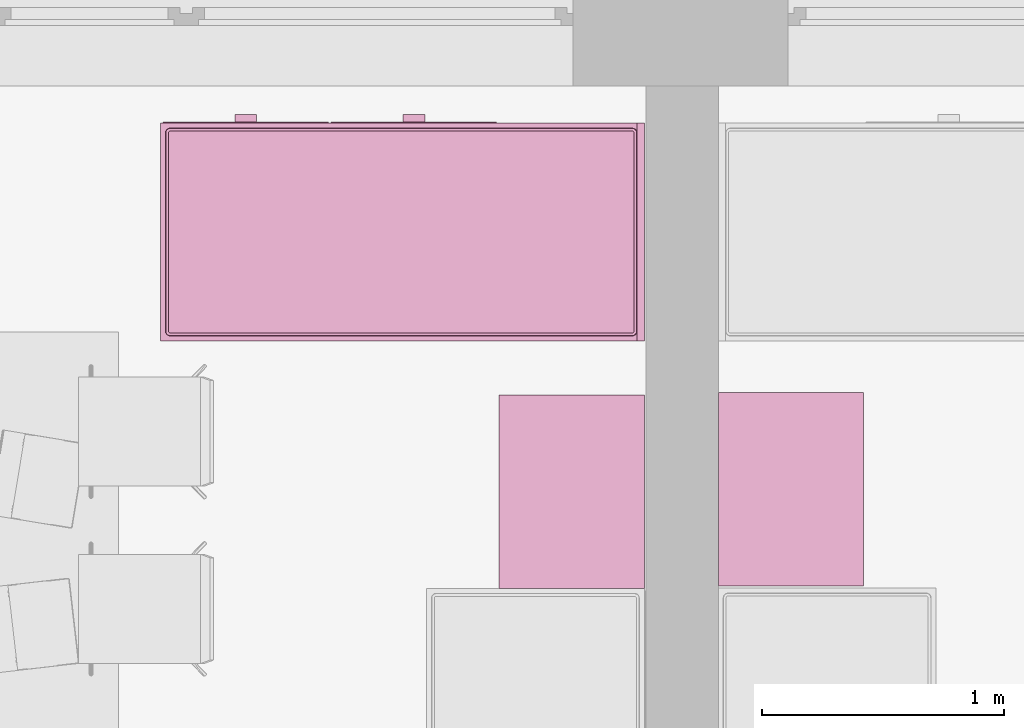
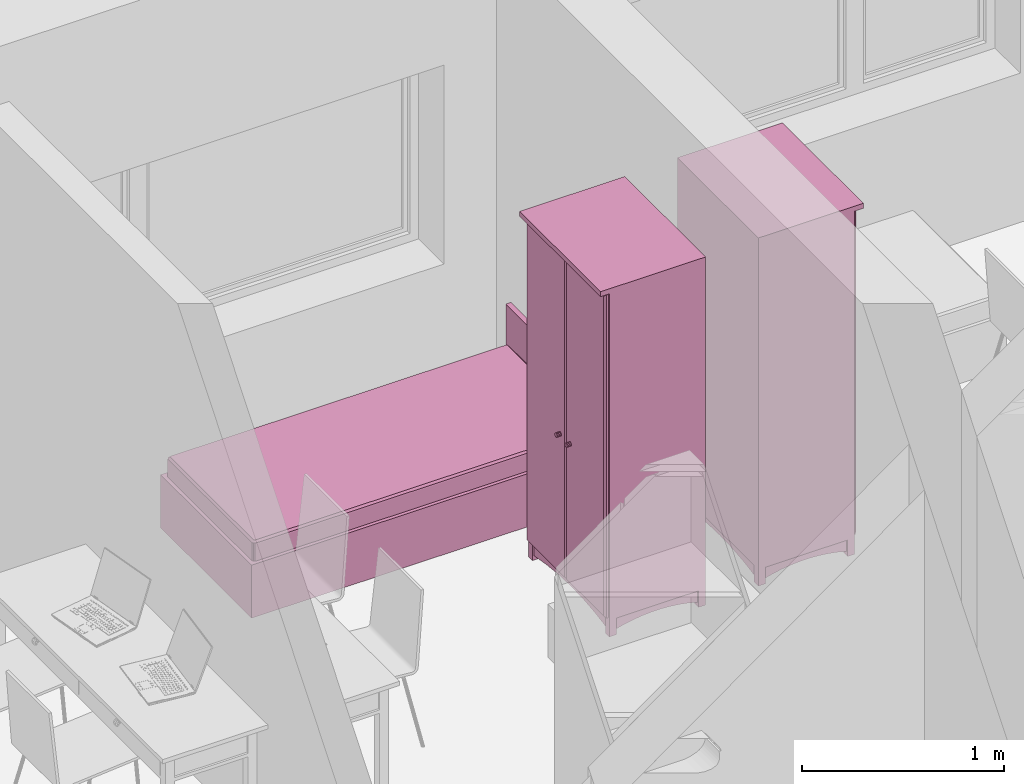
# One storey, part 111 of 172: 3 furnishings.
"""IFC2X3 building model written with IfcOpenShell, lengths in millimetres."""

from ifc_helpers import new_model, entity, si_unit, converted_unit, money_unit, direction, frame, origin_with_axes, place, context, subcontext, project, spatial, faceted_brep, source, transform, mapped, material, material_list, type_object, element, save


model = new_model("IFC2X3")

# Units and contexts
model_context = context("Model", 3, precision=1e-05, world=origin_with_axes(), true_north=direction((0.0, 1.0)))
body_context = subcontext(model_context, "Body", "Model", "MODEL_VIEW")
ifc_project = project(units=[si_unit("LENGTHUNIT", "METRE", prefix="MILLI"), si_unit("AREAUNIT", "SQUARE_METRE"), si_unit("VOLUMEUNIT", "CUBIC_METRE"), converted_unit("PLANEANGLEUNIT", "DEGREE", entity("IfcPlaneAngleMeasure", 0.0174532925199), si_unit("PLANEANGLEUNIT", "RADIAN"), dimensions=[0, 0, 0, 0, 0, 0, 0]), si_unit("SOLIDANGLEUNIT", "STERADIAN"), money_unit("USD"), converted_unit("TIMEUNIT", "Year", entity("IfcTimeMeasure", 31556926.0), si_unit("TIMEUNIT", "SECOND"), dimensions=[0, 0, 0, 0, 0, 0, 0]), si_unit("MASSUNIT", "GRAM"), si_unit("THERMODYNAMICTEMPERATUREUNIT", "DEGREE_CELSIUS"), si_unit("LUMINOUSINTENSITYUNIT", "LUMEN")], contexts=[model_context])

# Site, building, storey
site_placement = place(None, origin_with_axes())
site = spatial("IfcSite", under=ifc_project, at=site_placement, Name="Site", CompositionType="ELEMENT")
building_placement = place(site_placement, origin_with_axes())
building = spatial("IfcBuilding", under=site, at=building_placement, Name="Building", CompositionType="ELEMENT")
storey_placement = place(building_placement, frame((0.0, 0.0, 3200.0), z_axis=(0.0, 0.0, 1.0), x_axis=(1.0, 0.0, 0.0)))
storey = spatial("IfcBuildingStorey", under=building, at=storey_placement, Name="3KORRUS", CompositionType="ELEMENT", Elevation=3200.0)

# Furnishings
ifc_material = material(Name="Background")
ifc_material_list = material_list([ifc_material])
furnishing_element_type_1 = type_object("IfcFurnishingElementType", Name="Cupboard 19")
shared_shape_1 = source(origin_with_axes(), body_context, "Body", "Brep", [
    faceted_brep([(780.0, 600.0, 120.0), (780.0, 600.0, 2050.0), (780.0, 580.0, 2050.0), (780.0, 580.0, 120.0), (20.0, 600.0, 120.0), (20.0, 600.0, 2050.0), (20.0, 580.0, 2050.0), (20.0, 580.0, 120.0)], [[[0, 1, 2, 3]], [[4, 5, 1, 0]], [[1, 5, 6, 2]], [[3, 2, 6, 7]], [[0, 3, 7, 4]], [[7, 6, 5, 4]]]),
    faceted_brep([(0.0, 50.0, 100.0), (0.0, 600.0, 100.0), (20.0, 600.0, 100.0), (20.0, 50.0, 100.0), (0.0, 50.0, 2070.0), (0.0, 600.0, 2070.0), (20.0, 600.0, 2070.0), (20.0, 50.0, 2070.0)], [[[0, 1, 2, 3]], [[0, 4, 5, 1]], [[1, 5, 6, 2]], [[2, 6, 7, 3]], [[3, 7, 4, 0]], [[7, 6, 5, 4]]]),
    faceted_brep([(780.0, 50.0, 100.0), (780.0, 600.0, 100.0), (800.0, 600.0, 100.0), (800.0, 50.0, 100.0), (780.0, 50.0, 2070.0), (780.0, 600.0, 2070.0), (800.0, 600.0, 2070.0), (800.0, 50.0, 2070.0)], [[[0, 1, 2, 3]], [[0, 4, 5, 1]], [[1, 5, 6, 2]], [[2, 6, 7, 3]], [[3, 7, 4, 0]], [[7, 6, 5, 4]]]),
    faceted_brep([(20.0, 50.0, 100.0), (20.0, 600.0, 100.0), (780.0, 600.0, 100.0), (780.0, 50.0, 100.0), (20.0, 50.0, 120.0), (20.0, 600.0, 120.0), (780.0, 600.0, 120.0), (780.0, 50.0, 120.0)], [[[0, 1, 2, 3]], [[0, 4, 5, 1]], [[1, 5, 6, 2]], [[2, 6, 7, 3]], [[3, 7, 4, 0]], [[7, 6, 5, 4]]]),
    faceted_brep([(20.0, 50.0, 2050.0), (20.0, 600.0, 2050.0), (780.0, 600.0, 2050.0), (780.0, 50.0, 2050.0), (20.0, 50.0, 2070.0), (20.0, 600.0, 2070.0), (780.0, 600.0, 2070.0), (780.0, 50.0, 2070.0)], [[[0, 1, 2, 3]], [[0, 4, 5, 1]], [[1, 5, 6, 2]], [[2, 6, 7, 3]], [[3, 7, 4, 0]], [[7, 6, 5, 4]]]),
    faceted_brep([(0.0, 600.0, 2070.0), (0.0, 0.0, 2070.0), (0.0, 0.0, 2100.0), (0.0, 600.0, 2100.0), (800.0, 600.0, 2070.0), (800.0, 0.0, 2070.0), (800.0, 0.0, 2100.0), (800.0, 600.0, 2100.0)], [[[0, 1, 2, 3]], [[0, 4, 5, 1]], [[1, 5, 6, 2]], [[3, 2, 6, 7]], [[4, 0, 3, 7]], [[5, 4, 7, 6]]]),
    faceted_brep([(760.0, 590.0, 25.0), (760.0, 570.0, 25.0), (640.962, 570.0, 45.8), (640.962, 590.0, 45.8), (760.0, 590.0, 100.0), (760.0, 570.0, 100.0), (40.0, 570.0, 100.0), (40.0, 570.0, 25.0), (159.038, 570.0, 45.8), (279.23, 570.0, 58.32), (400.0, 570.0, 62.5), (520.77, 570.0, 58.32), (520.77, 590.0, 58.32), (400.0, 590.0, 62.5), (279.23, 590.0, 58.32), (159.038, 590.0, 45.8), (40.0, 590.0, 25.0), (40.0, 590.0, 100.0)], [[[0, 1, 2, 3]], [[4, 5, 1, 0]], [[1, 5, 6, 7, 8, 9, 10, 11, 2]], [[3, 2, 11, 12]], [[0, 3, 12, 13, 14, 15, 16, 17, 4]], [[17, 6, 5, 4]], [[16, 7, 6, 17]], [[15, 8, 7, 16]], [[14, 9, 8, 15]], [[13, 10, 9, 14]], [[12, 11, 10, 13]]]),
    faceted_brep([(760.0, 80.0, 25.0), (760.0, 60.0, 25.0), (640.962, 60.0, 45.8), (640.962, 80.0, 45.8), (760.0, 80.0, 100.0), (760.0, 60.0, 100.0), (40.0, 60.0, 100.0), (40.0, 60.0, 25.0), (159.038, 60.0, 45.8), (279.23, 60.0, 58.32), (400.0, 60.0, 62.5), (520.77, 60.0, 58.32), (520.77, 80.0, 58.32), (400.0, 80.0, 62.5), (279.23, 80.0, 58.32), (159.038, 80.0, 45.8), (40.0, 80.0, 25.0), (40.0, 80.0, 100.0)], [[[0, 1, 2, 3]], [[4, 5, 1, 0]], [[1, 5, 6, 7, 8, 9, 10, 11, 2]], [[3, 2, 11, 12]], [[0, 3, 12, 13, 14, 15, 16, 17, 4]], [[17, 6, 5, 4]], [[16, 7, 6, 17]], [[15, 8, 7, 16]], [[14, 9, 8, 15]], [[13, 10, 9, 14]], [[12, 11, 10, 13]]]),
    faceted_brep([(790.0, 90.0, 25.0), (770.0, 90.0, 25.0), (770.0, 141.266, 38.072), (790.0, 141.266, 38.072), (790.0, 90.0, 100.0), (770.0, 90.0, 100.0), (770.0, 560.0, 100.0), (770.0, 560.0, 25.0), (770.0, 508.734, 38.072), (770.0, 456.752, 47.92), (770.0, 404.257, 54.508), (770.0, 351.453, 57.808), (770.0, 298.547, 57.808), (770.0, 245.743, 54.508), (770.0, 193.248, 47.92), (790.0, 193.248, 47.92), (790.0, 245.743, 54.508), (790.0, 298.547, 57.808), (790.0, 351.453, 57.808), (790.0, 404.257, 54.508), (790.0, 456.752, 47.92), (790.0, 508.734, 38.072), (790.0, 560.0, 25.0), (790.0, 560.0, 100.0)], [[[0, 1, 2, 3]], [[4, 5, 1, 0]], [[1, 5, 6, 7, 8, 9, 10, 11, 12, 13, 14, 2]], [[3, 2, 14, 15]], [[0, 3, 15, 16, 17, 18, 19, 20, 21, 22, 23, 4]], [[23, 6, 5, 4]], [[22, 7, 6, 23]], [[21, 8, 7, 22]], [[20, 9, 8, 21]], [[19, 10, 9, 20]], [[18, 11, 10, 19]], [[17, 12, 11, 18]], [[16, 13, 12, 17]], [[15, 14, 13, 16]]]),
    faceted_brep([(30.0, 90.0, 25.0), (10.0, 90.0, 25.0), (10.0, 141.266, 38.072), (30.0, 141.266, 38.072), (30.0, 90.0, 100.0), (10.0, 90.0, 100.0), (10.0, 560.0, 100.0), (10.0, 560.0, 25.0), (10.0, 508.734, 38.072), (10.0, 456.752, 47.92), (10.0, 404.257, 54.508), (10.0, 351.453, 57.808), (10.0, 298.547, 57.808), (10.0, 245.743, 54.508), (10.0, 193.248, 47.92), (30.0, 193.248, 47.92), (30.0, 245.743, 54.508), (30.0, 298.547, 57.808), (30.0, 351.453, 57.808), (30.0, 404.257, 54.508), (30.0, 456.752, 47.92), (30.0, 508.734, 38.072), (30.0, 560.0, 25.0), (30.0, 560.0, 100.0)], [[[0, 1, 2, 3]], [[4, 5, 1, 0]], [[1, 5, 6, 7, 8, 9, 10, 11, 12, 13, 14, 2]], [[3, 2, 14, 15]], [[0, 3, 15, 16, 17, 18, 19, 20, 21, 22, 23, 4]], [[23, 6, 5, 4]], [[22, 7, 6, 23]], [[21, 8, 7, 22]], [[20, 9, 8, 21]], [[19, 10, 9, 20]], [[18, 11, 10, 19]], [[17, 12, 11, 18]], [[16, 13, 12, 17]], [[15, 14, 13, 16]]]),
    faceted_brep([(760.0, 560.0, 0.0), (760.0, 560.0, 100.0), (760.0, 600.0, 100.0), (760.0, 600.0, 0.0), (800.0, 560.0, 0.0), (800.0, 560.0, 100.0), (800.0, 600.0, 100.0), (800.0, 600.0, 0.0)], [[[0, 1, 2, 3]], [[4, 5, 1, 0]], [[1, 5, 6, 2]], [[3, 2, 6, 7]], [[0, 3, 7, 4]], [[7, 6, 5, 4]]]),
    faceted_brep([(0.0, 560.0, 0.0), (0.0, 560.0, 100.0), (0.0, 600.0, 100.0), (0.0, 600.0, 0.0), (40.0, 560.0, 0.0), (40.0, 560.0, 100.0), (40.0, 600.0, 100.0), (40.0, 600.0, 0.0)], [[[0, 1, 2, 3]], [[4, 5, 1, 0]], [[1, 5, 6, 2]], [[3, 2, 6, 7]], [[0, 3, 7, 4]], [[7, 6, 5, 4]]]),
    faceted_brep([(760.0, 50.0, 0.0), (760.0, 50.0, 100.0), (760.0, 90.0, 100.0), (760.0, 90.0, 0.0), (800.0, 50.0, 0.0), (800.0, 50.0, 100.0), (800.0, 90.0, 100.0), (800.0, 90.0, 0.0)], [[[0, 1, 2, 3]], [[4, 5, 1, 0]], [[1, 5, 6, 2]], [[3, 2, 6, 7]], [[0, 3, 7, 4]], [[7, 6, 5, 4]]]),
    faceted_brep([(0.0, 50.0, 0.0), (0.0, 50.0, 100.0), (0.0, 90.0, 100.0), (0.0, 90.0, 0.0), (40.0, 50.0, 0.0), (40.0, 50.0, 100.0), (40.0, 90.0, 100.0), (40.0, 90.0, 0.0)], [[[0, 1, 2, 3]], [[4, 5, 1, 0]], [[1, 5, 6, 2]], [[3, 2, 6, 7]], [[0, 3, 7, 4]], [[7, 6, 5, 4]]]),
    faceted_brep([(780.0, 580.0, 587.5), (780.0, 580.0, 607.5), (780.0, 50.0, 607.5), (780.0, 50.0, 587.5), (20.0, 580.0, 587.5), (20.0, 580.0, 607.5), (20.0, 50.0, 607.5), (20.0, 50.0, 587.5)], [[[0, 1, 2, 3]], [[4, 5, 1, 0]], [[1, 5, 6, 2]], [[3, 2, 6, 7]], [[0, 3, 7, 4]], [[7, 6, 5, 4]]]),
    faceted_brep([(780.0, 580.0, 1075.0), (780.0, 580.0, 1095.0), (780.0, 50.0, 1095.0), (780.0, 50.0, 1075.0), (20.0, 580.0, 1075.0), (20.0, 580.0, 1095.0), (20.0, 50.0, 1095.0), (20.0, 50.0, 1075.0)], [[[0, 1, 2, 3]], [[4, 5, 1, 0]], [[1, 5, 6, 2]], [[3, 2, 6, 7]], [[0, 3, 7, 4]], [[7, 6, 5, 4]]]),
    faceted_brep([(780.0, 580.0, 1562.5), (780.0, 580.0, 1582.5), (780.0, 50.0, 1582.5), (780.0, 50.0, 1562.5), (20.0, 580.0, 1562.5), (20.0, 580.0, 1582.5), (20.0, 50.0, 1582.5), (20.0, 50.0, 1562.5)], [[[0, 1, 2, 3]], [[4, 5, 1, 0]], [[1, 5, 6, 2]], [[3, 2, 6, 7]], [[0, 3, 7, 4]], [[7, 6, 5, 4]]]),
    faceted_brep([(789.5, 50.0, 110.5), (400.5, 50.0, 110.5), (400.5, 50.0, 2059.5), (789.5, 50.0, 2059.5), (789.5, 40.0, 110.5), (400.5, 40.0, 110.5), (400.5, 40.0, 2059.5), (789.5, 40.0, 2059.5), (779.5, 30.0, 120.5), (410.5, 30.0, 120.5), (410.5, 30.0, 2049.5), (779.5, 30.0, 2049.5)], [[[0, 1, 2, 3]], [[0, 4, 5, 1]], [[1, 5, 6, 2]], [[2, 6, 7, 3]], [[3, 7, 4, 0]], [[4, 8, 9, 5]], [[5, 9, 10, 6]], [[6, 10, 11, 7]], [[7, 11, 8, 4]], [[10, 9, 8, 11]]]),
    faceted_brep([(399.5, 50.0, 110.5), (10.5, 50.0, 110.5), (10.5, 50.0, 2059.5), (399.5, 50.0, 2059.5), (399.5, 40.0, 110.5), (10.5, 40.0, 110.5), (10.5, 40.0, 2059.5), (399.5, 40.0, 2059.5), (389.5, 30.0, 120.5), (20.5, 30.0, 120.5), (20.5, 30.0, 2049.5), (389.5, 30.0, 2049.5)], [[[0, 1, 2, 3]], [[0, 4, 5, 1]], [[1, 5, 6, 2]], [[2, 6, 7, 3]], [[3, 7, 4, 0]], [[4, 8, 9, 5]], [[5, 9, 10, 6]], [[6, 10, 11, 7]], [[7, 11, 8, 4]], [[10, 9, 8, 11]]]),
    faceted_brep([(339.608, 30.0, 954.0), (338.0, 30.0, 960.0), (339.608, 30.0, 966.0), (344.0, 30.0, 970.392), (350.0, 30.0, 972.0), (356.0, 30.0, 970.392), (360.392, 30.0, 966.0), (362.0, 30.0, 960.0), (360.392, 30.0, 954.0), (356.0, 30.0, 949.608), (350.0, 30.0, 948.0), (344.0, 30.0, 949.608), (339.608, 5.0, 954.0), (338.0, 5.0, 960.0), (339.608, 5.0, 966.0), (344.0, 5.0, 970.392), (350.0, 5.0, 972.0), (356.0, 5.0, 970.392), (360.392, 5.0, 966.0), (362.0, 5.0, 960.0), (360.392, 5.0, 954.0), (356.0, 5.0, 949.608), (350.0, 5.0, 948.0), (344.0, 5.0, 949.608)], [[[0, 1, 2, 3, 4, 5, 6, 7, 8, 9, 10, 11]], [[0, 12, 13, 1]], [[1, 13, 14, 2]], [[2, 14, 15, 3]], [[3, 15, 16, 4]], [[4, 16, 17, 5]], [[5, 17, 18, 6]], [[6, 18, 19, 7]], [[7, 19, 20, 8]], [[8, 20, 21, 9]], [[9, 21, 22, 10]], [[10, 22, 23, 11]], [[11, 23, 12, 0]], [[12, 23, 22, 21, 20, 19, 18, 17, 16, 15, 14, 13]]]),
    faceted_brep([(460.392, 30.0, 954.0), (456.0, 30.0, 949.608), (450.0, 30.0, 948.0), (444.0, 30.0, 949.608), (439.608, 30.0, 954.0), (438.0, 30.0, 960.0), (439.608, 30.0, 966.0), (444.0, 30.0, 970.392), (450.0, 30.0, 972.0), (456.0, 30.0, 970.392), (460.392, 30.0, 966.0), (462.0, 30.0, 960.0), (460.392, 5.0, 954.0), (456.0, 5.0, 949.608), (450.0, 5.0, 948.0), (444.0, 5.0, 949.608), (439.608, 5.0, 954.0), (438.0, 5.0, 960.0), (439.608, 5.0, 966.0), (444.0, 5.0, 970.392), (450.0, 5.0, 972.0), (456.0, 5.0, 970.392), (460.392, 5.0, 966.0), (462.0, 5.0, 960.0)], [[[0, 1, 2, 3, 4, 5, 6, 7, 8, 9, 10, 11]], [[1, 0, 12, 13]], [[2, 1, 13, 14]], [[3, 2, 14, 15]], [[4, 3, 15, 16]], [[5, 4, 16, 17]], [[6, 5, 17, 18]], [[7, 6, 18, 19]], [[8, 7, 19, 20]], [[9, 8, 20, 21]], [[10, 9, 21, 22]], [[11, 10, 22, 23]], [[0, 11, 23, 12]], [[12, 23, 22, 21, 20, 19, 18, 17, 16, 15, 14, 13]]]),
])
furnishing_1_placement = place(storey_placement, frame((-35390.2967033, -7206.41563755, 0.0), z_axis=(0.0, 0.0, 1.0), x_axis=(0.0, 1.0, 0.0)))
element("IfcFurnishingElement", 1, at=furnishing_1_placement, inside=storey, type_object=furnishing_element_type_1, material=ifc_material_list, Name="FU - 014", context=body_context, shape_type="MappedRepresentation", body=[
    mapped(shared_shape_1, transform((0.0, 0.0, 0.0))),
])
shared_shape_2 = source(origin_with_axes(), body_context, "Body", "Brep", [
    faceted_brep([(-780.0, 600.0, 120.0), (-780.0, 580.0, 120.0), (-780.0, 580.0, 2050.0), (-780.0, 600.0, 2050.0), (-20.0, 600.0, 120.0), (-20.0, 580.0, 120.0), (-20.0, 580.0, 2050.0), (-20.0, 600.0, 2050.0)], [[[0, 1, 2, 3]], [[0, 4, 5, 1]], [[1, 5, 6, 2]], [[3, 2, 6, 7]], [[4, 0, 3, 7]], [[5, 4, 7, 6]]]),
    faceted_brep([(0.0, 50.0, 100.0), (-20.0, 50.0, 100.0), (-20.0, 600.0, 100.0), (0.0, 600.0, 100.0), (0.0, 50.0, 2070.0), (-20.0, 50.0, 2070.0), (-20.0, 600.0, 2070.0), (0.0, 600.0, 2070.0)], [[[0, 1, 2, 3]], [[1, 0, 4, 5]], [[2, 1, 5, 6]], [[3, 2, 6, 7]], [[0, 3, 7, 4]], [[5, 4, 7, 6]]]),
    faceted_brep([(-780.0, 50.0, 100.0), (-800.0, 50.0, 100.0), (-800.0, 600.0, 100.0), (-780.0, 600.0, 100.0), (-780.0, 50.0, 2070.0), (-800.0, 50.0, 2070.0), (-800.0, 600.0, 2070.0), (-780.0, 600.0, 2070.0)], [[[0, 1, 2, 3]], [[1, 0, 4, 5]], [[2, 1, 5, 6]], [[3, 2, 6, 7]], [[0, 3, 7, 4]], [[5, 4, 7, 6]]]),
    faceted_brep([(-20.0, 50.0, 100.0), (-780.0, 50.0, 100.0), (-780.0, 600.0, 100.0), (-20.0, 600.0, 100.0), (-20.0, 50.0, 120.0), (-780.0, 50.0, 120.0), (-780.0, 600.0, 120.0), (-20.0, 600.0, 120.0)], [[[0, 1, 2, 3]], [[1, 0, 4, 5]], [[2, 1, 5, 6]], [[3, 2, 6, 7]], [[0, 3, 7, 4]], [[5, 4, 7, 6]]]),
    faceted_brep([(-20.0, 50.0, 2050.0), (-780.0, 50.0, 2050.0), (-780.0, 600.0, 2050.0), (-20.0, 600.0, 2050.0), (-20.0, 50.0, 2070.0), (-780.0, 50.0, 2070.0), (-780.0, 600.0, 2070.0), (-20.0, 600.0, 2070.0)], [[[0, 1, 2, 3]], [[1, 0, 4, 5]], [[2, 1, 5, 6]], [[3, 2, 6, 7]], [[0, 3, 7, 4]], [[5, 4, 7, 6]]]),
    faceted_brep([(0.0, 600.0, 2070.0), (0.0, 600.0, 2100.0), (0.0, 0.0, 2100.0), (0.0, 0.0, 2070.0), (-800.0, 600.0, 2070.0), (-800.0, 600.0, 2100.0), (-800.0, 0.0, 2100.0), (-800.0, 0.0, 2070.0)], [[[0, 1, 2, 3]], [[4, 5, 1, 0]], [[1, 5, 6, 2]], [[3, 2, 6, 7]], [[0, 3, 7, 4]], [[7, 6, 5, 4]]]),
    faceted_brep([(-760.0, 590.0, 25.0), (-640.962, 590.0, 45.8), (-640.962, 570.0, 45.8), (-760.0, 570.0, 25.0), (-760.0, 590.0, 100.0), (-40.0, 590.0, 100.0), (-40.0, 590.0, 25.0), (-159.038, 590.0, 45.8), (-279.23, 590.0, 58.32), (-400.0, 590.0, 62.5), (-520.77, 590.0, 58.32), (-520.77, 570.0, 58.32), (-400.0, 570.0, 62.5), (-279.23, 570.0, 58.32), (-159.038, 570.0, 45.8), (-40.0, 570.0, 25.0), (-40.0, 570.0, 100.0), (-760.0, 570.0, 100.0)], [[[0, 1, 2, 3]], [[0, 4, 5, 6, 7, 8, 9, 10, 1]], [[1, 10, 11, 2]], [[3, 2, 11, 12, 13, 14, 15, 16, 17]], [[4, 0, 3, 17]], [[5, 4, 17, 16]], [[6, 5, 16, 15]], [[7, 6, 15, 14]], [[8, 7, 14, 13]], [[9, 8, 13, 12]], [[10, 9, 12, 11]]]),
    faceted_brep([(-760.0, 80.0, 25.0), (-640.962, 80.0, 45.8), (-640.962, 60.0, 45.8), (-760.0, 60.0, 25.0), (-760.0, 80.0, 100.0), (-40.0, 80.0, 100.0), (-40.0, 80.0, 25.0), (-159.038, 80.0, 45.8), (-279.23, 80.0, 58.32), (-400.0, 80.0, 62.5), (-520.77, 80.0, 58.32), (-520.77, 60.0, 58.32), (-400.0, 60.0, 62.5), (-279.23, 60.0, 58.32), (-159.038, 60.0, 45.8), (-40.0, 60.0, 25.0), (-40.0, 60.0, 100.0), (-760.0, 60.0, 100.0)], [[[0, 1, 2, 3]], [[0, 4, 5, 6, 7, 8, 9, 10, 1]], [[1, 10, 11, 2]], [[3, 2, 11, 12, 13, 14, 15, 16, 17]], [[4, 0, 3, 17]], [[5, 4, 17, 16]], [[6, 5, 16, 15]], [[7, 6, 15, 14]], [[8, 7, 14, 13]], [[9, 8, 13, 12]], [[10, 9, 12, 11]]]),
    faceted_brep([(-790.0, 90.0, 25.0), (-790.0, 141.266, 38.072), (-770.0, 141.266, 38.072), (-770.0, 90.0, 25.0), (-790.0, 90.0, 100.0), (-790.0, 560.0, 100.0), (-790.0, 560.0, 25.0), (-790.0, 508.734, 38.072), (-790.0, 456.752, 47.92), (-790.0, 404.257, 54.508), (-790.0, 351.453, 57.808), (-790.0, 298.547, 57.808), (-790.0, 245.743, 54.508), (-790.0, 193.248, 47.92), (-770.0, 193.248, 47.92), (-770.0, 245.743, 54.508), (-770.0, 298.547, 57.808), (-770.0, 351.453, 57.808), (-770.0, 404.257, 54.508), (-770.0, 456.752, 47.92), (-770.0, 508.734, 38.072), (-770.0, 560.0, 25.0), (-770.0, 560.0, 100.0), (-770.0, 90.0, 100.0)], [[[0, 1, 2, 3]], [[0, 4, 5, 6, 7, 8, 9, 10, 11, 12, 13, 1]], [[1, 13, 14, 2]], [[3, 2, 14, 15, 16, 17, 18, 19, 20, 21, 22, 23]], [[4, 0, 3, 23]], [[5, 4, 23, 22]], [[6, 5, 22, 21]], [[7, 6, 21, 20]], [[8, 7, 20, 19]], [[9, 8, 19, 18]], [[10, 9, 18, 17]], [[11, 10, 17, 16]], [[12, 11, 16, 15]], [[13, 12, 15, 14]]]),
    faceted_brep([(-30.0, 90.0, 25.0), (-30.0, 141.266, 38.072), (-10.0, 141.266, 38.072), (-10.0, 90.0, 25.0), (-30.0, 90.0, 100.0), (-30.0, 560.0, 100.0), (-30.0, 560.0, 25.0), (-30.0, 508.734, 38.072), (-30.0, 456.752, 47.92), (-30.0, 404.257, 54.508), (-30.0, 351.453, 57.808), (-30.0, 298.547, 57.808), (-30.0, 245.743, 54.508), (-30.0, 193.248, 47.92), (-10.0, 193.248, 47.92), (-10.0, 245.743, 54.508), (-10.0, 298.547, 57.808), (-10.0, 351.453, 57.808), (-10.0, 404.257, 54.508), (-10.0, 456.752, 47.92), (-10.0, 508.734, 38.072), (-10.0, 560.0, 25.0), (-10.0, 560.0, 100.0), (-10.0, 90.0, 100.0)], [[[0, 1, 2, 3]], [[0, 4, 5, 6, 7, 8, 9, 10, 11, 12, 13, 1]], [[1, 13, 14, 2]], [[3, 2, 14, 15, 16, 17, 18, 19, 20, 21, 22, 23]], [[4, 0, 3, 23]], [[5, 4, 23, 22]], [[6, 5, 22, 21]], [[7, 6, 21, 20]], [[8, 7, 20, 19]], [[9, 8, 19, 18]], [[10, 9, 18, 17]], [[11, 10, 17, 16]], [[12, 11, 16, 15]], [[13, 12, 15, 14]]]),
    faceted_brep([(-760.0, 560.0, 0.0), (-760.0, 600.0, 0.0), (-760.0, 600.0, 100.0), (-760.0, 560.0, 100.0), (-800.0, 560.0, 0.0), (-800.0, 600.0, 0.0), (-800.0, 600.0, 100.0), (-800.0, 560.0, 100.0)], [[[0, 1, 2, 3]], [[0, 4, 5, 1]], [[1, 5, 6, 2]], [[3, 2, 6, 7]], [[4, 0, 3, 7]], [[5, 4, 7, 6]]]),
    faceted_brep([(0.0, 560.0, 0.0), (0.0, 600.0, 0.0), (0.0, 600.0, 100.0), (0.0, 560.0, 100.0), (-40.0, 560.0, 0.0), (-40.0, 600.0, 0.0), (-40.0, 600.0, 100.0), (-40.0, 560.0, 100.0)], [[[0, 1, 2, 3]], [[0, 4, 5, 1]], [[1, 5, 6, 2]], [[3, 2, 6, 7]], [[4, 0, 3, 7]], [[5, 4, 7, 6]]]),
    faceted_brep([(-760.0, 50.0, 0.0), (-760.0, 90.0, 0.0), (-760.0, 90.0, 100.0), (-760.0, 50.0, 100.0), (-800.0, 50.0, 0.0), (-800.0, 90.0, 0.0), (-800.0, 90.0, 100.0), (-800.0, 50.0, 100.0)], [[[0, 1, 2, 3]], [[0, 4, 5, 1]], [[1, 5, 6, 2]], [[3, 2, 6, 7]], [[4, 0, 3, 7]], [[5, 4, 7, 6]]]),
    faceted_brep([(0.0, 50.0, 0.0), (0.0, 90.0, 0.0), (0.0, 90.0, 100.0), (0.0, 50.0, 100.0), (-40.0, 50.0, 0.0), (-40.0, 90.0, 0.0), (-40.0, 90.0, 100.0), (-40.0, 50.0, 100.0)], [[[0, 1, 2, 3]], [[0, 4, 5, 1]], [[1, 5, 6, 2]], [[3, 2, 6, 7]], [[4, 0, 3, 7]], [[5, 4, 7, 6]]]),
    faceted_brep([(-780.0, 580.0, 587.5), (-780.0, 50.0, 587.5), (-780.0, 50.0, 607.5), (-780.0, 580.0, 607.5), (-20.0, 580.0, 587.5), (-20.0, 50.0, 587.5), (-20.0, 50.0, 607.5), (-20.0, 580.0, 607.5)], [[[0, 1, 2, 3]], [[0, 4, 5, 1]], [[1, 5, 6, 2]], [[3, 2, 6, 7]], [[4, 0, 3, 7]], [[5, 4, 7, 6]]]),
    faceted_brep([(-780.0, 580.0, 1075.0), (-780.0, 50.0, 1075.0), (-780.0, 50.0, 1095.0), (-780.0, 580.0, 1095.0), (-20.0, 580.0, 1075.0), (-20.0, 50.0, 1075.0), (-20.0, 50.0, 1095.0), (-20.0, 580.0, 1095.0)], [[[0, 1, 2, 3]], [[0, 4, 5, 1]], [[1, 5, 6, 2]], [[3, 2, 6, 7]], [[4, 0, 3, 7]], [[5, 4, 7, 6]]]),
    faceted_brep([(-780.0, 580.0, 1562.5), (-780.0, 50.0, 1562.5), (-780.0, 50.0, 1582.5), (-780.0, 580.0, 1582.5), (-20.0, 580.0, 1562.5), (-20.0, 50.0, 1562.5), (-20.0, 50.0, 1582.5), (-20.0, 580.0, 1582.5)], [[[0, 1, 2, 3]], [[0, 4, 5, 1]], [[1, 5, 6, 2]], [[3, 2, 6, 7]], [[4, 0, 3, 7]], [[5, 4, 7, 6]]]),
    faceted_brep([(-789.5, 50.0, 110.5), (-789.5, 50.0, 2059.5), (-400.5, 50.0, 2059.5), (-400.5, 50.0, 110.5), (-789.5, 40.0, 110.5), (-789.5, 40.0, 2059.5), (-400.5, 40.0, 2059.5), (-400.5, 40.0, 110.5), (-779.5, 30.0, 120.5), (-779.5, 30.0, 2049.5), (-410.5, 30.0, 2049.5), (-410.5, 30.0, 120.5)], [[[0, 1, 2, 3]], [[1, 0, 4, 5]], [[2, 1, 5, 6]], [[3, 2, 6, 7]], [[0, 3, 7, 4]], [[5, 4, 8, 9]], [[6, 5, 9, 10]], [[7, 6, 10, 11]], [[4, 7, 11, 8]], [[10, 9, 8, 11]]]),
    faceted_brep([(-399.5, 50.0, 110.5), (-399.5, 50.0, 2059.5), (-10.5, 50.0, 2059.5), (-10.5, 50.0, 110.5), (-399.5, 40.0, 110.5), (-399.5, 40.0, 2059.5), (-10.5, 40.0, 2059.5), (-10.5, 40.0, 110.5), (-389.5, 30.0, 120.5), (-389.5, 30.0, 2049.5), (-20.5, 30.0, 2049.5), (-20.5, 30.0, 120.5)], [[[0, 1, 2, 3]], [[1, 0, 4, 5]], [[2, 1, 5, 6]], [[3, 2, 6, 7]], [[0, 3, 7, 4]], [[5, 4, 8, 9]], [[6, 5, 9, 10]], [[7, 6, 10, 11]], [[4, 7, 11, 8]], [[10, 9, 8, 11]]]),
    faceted_brep([(-339.608, 30.0, 954.0), (-344.0, 30.0, 949.608), (-350.0, 30.0, 948.0), (-356.0, 30.0, 949.608), (-360.392, 30.0, 954.0), (-362.0, 30.0, 960.0), (-360.392, 30.0, 966.0), (-356.0, 30.0, 970.392), (-350.0, 30.0, 972.0), (-344.0, 30.0, 970.392), (-339.608, 30.0, 966.0), (-338.0, 30.0, 960.0), (-339.608, 5.0, 954.0), (-344.0, 5.0, 949.608), (-350.0, 5.0, 948.0), (-356.0, 5.0, 949.608), (-360.392, 5.0, 954.0), (-362.0, 5.0, 960.0), (-360.392, 5.0, 966.0), (-356.0, 5.0, 970.392), (-350.0, 5.0, 972.0), (-344.0, 5.0, 970.392), (-339.608, 5.0, 966.0), (-338.0, 5.0, 960.0)], [[[0, 1, 2, 3, 4, 5, 6, 7, 8, 9, 10, 11]], [[1, 0, 12, 13]], [[2, 1, 13, 14]], [[3, 2, 14, 15]], [[4, 3, 15, 16]], [[5, 4, 16, 17]], [[6, 5, 17, 18]], [[7, 6, 18, 19]], [[8, 7, 19, 20]], [[9, 8, 20, 21]], [[10, 9, 21, 22]], [[11, 10, 22, 23]], [[0, 11, 23, 12]], [[12, 23, 22, 21, 20, 19, 18, 17, 16, 15, 14, 13]]]),
    faceted_brep([(-460.392, 30.0, 954.0), (-462.0, 30.0, 960.0), (-460.392, 30.0, 966.0), (-456.0, 30.0, 970.392), (-450.0, 30.0, 972.0), (-444.0, 30.0, 970.392), (-439.608, 30.0, 966.0), (-438.0, 30.0, 960.0), (-439.608, 30.0, 954.0), (-444.0, 30.0, 949.608), (-450.0, 30.0, 948.0), (-456.0, 30.0, 949.608), (-460.392, 5.0, 954.0), (-462.0, 5.0, 960.0), (-460.392, 5.0, 966.0), (-456.0, 5.0, 970.392), (-450.0, 5.0, 972.0), (-444.0, 5.0, 970.392), (-439.608, 5.0, 966.0), (-438.0, 5.0, 960.0), (-439.608, 5.0, 954.0), (-444.0, 5.0, 949.608), (-450.0, 5.0, 948.0), (-456.0, 5.0, 949.608)], [[[0, 1, 2, 3, 4, 5, 6, 7, 8, 9, 10, 11]], [[0, 12, 13, 1]], [[1, 13, 14, 2]], [[2, 14, 15, 3]], [[3, 15, 16, 4]], [[4, 16, 17, 5]], [[5, 17, 18, 6]], [[6, 18, 19, 7]], [[7, 19, 20, 8]], [[8, 20, 21, 9]], [[9, 21, 22, 10]], [[10, 22, 23, 11]], [[11, 23, 12, 0]], [[12, 23, 22, 21, 20, 19, 18, 17, 16, 15, 14, 13]]]),
])
furnishing_2_placement = place(storey_placement, frame((-36896.5850987, -7217.37850445, 0.0), z_axis=(0.0, 0.0, 1.0), x_axis=(0.0, -1.0, 0.0)))
element("IfcFurnishingElement", 2, at=furnishing_2_placement, inside=storey, type_object=furnishing_element_type_1, material=ifc_material_list, Name="FU - 014", context=body_context, shape_type="MappedRepresentation", body=[
    mapped(shared_shape_2, transform((0.0, 0.0, 0.0))),
])
furnishing_element_type_2 = type_object("IfcFurnishingElementType", Name="Bed 19")
shared_shape_3 = source(origin_with_axes(), body_context, "Body", "Brep", [
    faceted_brep([(-900.0, 1970.0, 0.0), (-900.0, 2000.0, 0.0), (0.0, 2000.0, 0.0), (0.0, 1970.0, 0.0), (-900.0, 1970.0, 660.0), (-900.0, 2000.0, 660.0), (0.0, 2000.0, 660.0), (0.0, 1970.0, 660.0)], [[[0, 1, 2, 3]], [[0, 4, 5, 1]], [[1, 5, 6, 2]], [[2, 6, 7, 3]], [[3, 7, 4, 0]], [[7, 6, 5, 4]]]),
    faceted_brep([(-900.0, 0.0, 0.0), (-900.0, 1970.0, 0.0), (0.0, 1970.0, 0.0), (0.0, 0.0, 0.0), (-900.0, 0.0, 320.0), (-900.0, 1970.0, 320.0), (0.0, 1970.0, 320.0), (0.0, 0.0, 320.0)], [[[0, 1, 2, 3]], [[0, 4, 5, 1]], [[1, 5, 6, 2]], [[2, 6, 7, 3]], [[3, 7, 4, 0]], [[7, 6, 5, 4]]]),
    faceted_brep([(-905.0, 10.0, 30.0), (-905.0, 695.0, 30.0), (-900.0, 695.0, 30.0), (-900.0, 10.0, 30.0), (-905.0, 10.0, 290.0), (-905.0, 695.0, 290.0), (-900.0, 695.0, 290.0), (-900.0, 10.0, 290.0)], [[[0, 1, 2, 3]], [[0, 4, 5, 1]], [[1, 5, 6, 2]], [[2, 6, 7, 3]], [[3, 7, 4, 0]], [[7, 6, 5, 4]]]),
    faceted_brep([(-935.0, 307.5, 150.0), (-935.0, 397.5, 150.0), (-905.0, 397.5, 150.0), (-905.0, 307.5, 150.0), (-935.0, 307.5, 170.0), (-935.0, 397.5, 170.0), (-905.0, 397.5, 170.0), (-905.0, 307.5, 170.0)], [[[0, 1, 2, 3]], [[0, 4, 5, 1]], [[1, 5, 6, 2]], [[2, 6, 7, 3]], [[3, 7, 4, 0]], [[7, 6, 5, 4]]]),
    faceted_brep([(-905.0, 705.0, 30.0), (-905.0, 1390.0, 30.0), (-900.0, 1390.0, 30.0), (-900.0, 705.0, 30.0), (-905.0, 705.0, 290.0), (-905.0, 1390.0, 290.0), (-900.0, 1390.0, 290.0), (-900.0, 705.0, 290.0)], [[[0, 1, 2, 3]], [[0, 4, 5, 1]], [[1, 5, 6, 2]], [[2, 6, 7, 3]], [[3, 7, 4, 0]], [[7, 6, 5, 4]]]),
    faceted_brep([(-935.0, 1002.5, 150.0), (-935.0, 1092.5, 150.0), (-905.0, 1092.5, 150.0), (-905.0, 1002.5, 150.0), (-935.0, 1002.5, 170.0), (-935.0, 1092.5, 170.0), (-905.0, 1092.5, 170.0), (-905.0, 1002.5, 170.0)], [[[0, 1, 2, 3]], [[0, 4, 5, 1]], [[1, 5, 6, 2]], [[2, 6, 7, 3]], [[3, 7, 4, 0]], [[7, 6, 5, 4]]]),
    faceted_brep([(-20.0, 40.0, 350.0), (-21.522, 32.346, 350.0), (-25.858, 25.858, 350.0), (-32.346, 21.522, 350.0), (-40.0, 20.0, 350.0), (-860.0, 20.0, 350.0), (-867.654, 21.522, 350.0), (-874.142, 25.858, 350.0), (-878.478, 32.346, 350.0), (-880.0, 40.0, 350.0), (-880.0, 1950.0, 350.0), (-878.478, 1957.654, 350.0), (-874.142, 1964.142, 350.0), (-867.654, 1968.478, 350.0), (-860.0, 1970.0, 350.0), (-40.0, 1970.0, 350.0), (-32.346, 1968.478, 350.0), (-25.858, 1964.142, 350.0), (-21.522, 1957.654, 350.0), (-20.0, 1950.0, 350.0), (-20.0, 40.0, 420.0), (-21.522, 32.346, 420.0), (-25.858, 25.858, 420.0), (-32.346, 21.522, 420.0), (-40.0, 20.0, 420.0), (-860.0, 20.0, 420.0), (-867.654, 21.522, 420.0), (-874.142, 25.858, 420.0), (-878.478, 32.346, 420.0), (-880.0, 40.0, 420.0), (-880.0, 1950.0, 420.0), (-878.478, 1957.654, 420.0), (-874.142, 1964.142, 420.0), (-867.654, 1968.478, 420.0), (-860.0, 1970.0, 420.0), (-40.0, 1970.0, 420.0), (-32.346, 1968.478, 420.0), (-25.858, 1964.142, 420.0), (-21.522, 1957.654, 420.0), (-20.0, 1950.0, 420.0), (-21.522, 40.15, 427.654), (-22.956, 32.94, 427.654), (-26.955, 26.955, 427.654), (-32.94, 22.956, 427.654), (-40.15, 21.522, 427.654), (-859.85, 21.522, 427.654), (-867.06, 22.956, 427.654), (-873.045, 26.955, 427.654), (-877.044, 32.94, 427.654), (-878.478, 40.15, 427.654), (-878.478, 1949.85, 427.654), (-877.044, 1957.06, 427.654), (-873.045, 1963.045, 427.654), (-867.06, 1967.044, 427.654), (-859.85, 1968.478, 427.654), (-40.15, 1968.478, 427.654), (-32.94, 1967.044, 427.654), (-26.955, 1963.045, 427.654), (-22.956, 1957.06, 427.654), (-21.522, 1949.85, 427.654), (-32.346, 41.216, 438.478), (-33.152, 37.164, 438.478), (-34.759, 34.759, 438.478), (-37.164, 33.152, 438.478), (-41.216, 32.346, 438.478), (-858.784, 32.346, 438.478), (-862.836, 33.152, 438.478), (-865.241, 34.759, 438.478), (-866.848, 37.164, 438.478), (-867.654, 41.216, 438.478), (-867.654, 1948.784, 438.478), (-866.848, 1952.836, 438.478), (-865.241, 1955.241, 438.478), (-862.836, 1956.848, 438.478), (-858.784, 1957.654, 438.478), (-41.216, 1957.654, 438.478), (-37.164, 1956.848, 438.478), (-34.759, 1955.241, 438.478), (-33.152, 1952.836, 438.478), (-32.346, 1948.784, 438.478), (-40.0, 41.97, 440.0), (-40.327, 40.327, 440.0), (-40.0, 40.0, 439.924), (-41.97, 40.0, 440.0), (-858.03, 40.0, 440.0), (-859.673, 40.327, 440.0), (-860.0, 40.0, 439.924), (-860.0, 41.97, 440.0), (-860.0, 1948.03, 440.0), (-859.673, 1949.673, 440.0), (-860.0, 1950.0, 439.924), (-858.03, 1950.0, 440.0), (-41.97, 1950.0, 440.0), (-40.327, 1949.673, 440.0), (-40.0, 1950.0, 439.924), (-40.0, 1948.03, 440.0)], [[[0, 1, 2, 3, 4, 5, 6, 7, 8, 9, 10, 11, 12, 13, 14, 15, 16, 17, 18, 19]], [[0, 20, 21, 1]], [[1, 21, 22, 2]], [[2, 22, 23, 3]], [[3, 23, 24, 4]], [[4, 24, 25, 5]], [[5, 25, 26, 6]], [[6, 26, 27, 7]], [[7, 27, 28, 8]], [[8, 28, 29, 9]], [[9, 29, 30, 10]], [[10, 30, 31, 11]], [[11, 31, 32, 12]], [[12, 32, 33, 13]], [[13, 33, 34, 14]], [[14, 34, 35, 15]], [[15, 35, 36, 16]], [[16, 36, 37, 17]], [[17, 37, 38, 18]], [[18, 38, 39, 19]], [[19, 39, 20, 0]], [[20, 40, 41, 21]], [[21, 41, 42, 22]], [[22, 42, 43, 23]], [[23, 43, 44, 24]], [[24, 44, 45, 25]], [[25, 45, 46, 26]], [[26, 46, 47, 27]], [[27, 47, 48, 28]], [[28, 48, 49, 29]], [[29, 49, 50, 30]], [[30, 50, 51, 31]], [[31, 51, 52, 32]], [[32, 52, 53, 33]], [[33, 53, 54, 34]], [[34, 54, 55, 35]], [[35, 55, 56, 36]], [[36, 56, 57, 37]], [[37, 57, 58, 38]], [[38, 58, 59, 39]], [[39, 59, 40, 20]], [[40, 60, 61, 41]], [[41, 61, 62, 42]], [[42, 62, 63, 43]], [[43, 63, 64, 44]], [[44, 64, 65, 45]], [[45, 65, 66, 46]], [[46, 66, 67, 47]], [[47, 67, 68, 48]], [[48, 68, 69, 49]], [[49, 69, 70, 50]], [[50, 70, 71, 51]], [[51, 71, 72, 52]], [[52, 72, 73, 53]], [[53, 73, 74, 54]], [[54, 74, 75, 55]], [[55, 75, 76, 56]], [[56, 76, 77, 57]], [[57, 77, 78, 58]], [[58, 78, 79, 59]], [[59, 79, 60, 40]], [[60, 80, 81, 82, 61]], [[61, 82, 62]], [[62, 82, 63]], [[63, 82, 81, 83, 64]], [[64, 83, 84, 65]], [[65, 84, 85, 86, 66]], [[66, 86, 67]], [[67, 86, 68]], [[68, 86, 85, 87, 69]], [[69, 87, 88, 70]], [[70, 88, 89, 90, 71]], [[71, 90, 72]], [[72, 90, 73]], [[73, 90, 89, 91, 74]], [[74, 91, 92, 75]], [[75, 92, 93, 94, 76]], [[76, 94, 77]], [[77, 94, 78]], [[78, 94, 93, 95, 79]], [[79, 95, 80, 60]], [[95, 93, 92, 91, 89, 88, 87, 85, 84, 83, 81, 80]]]),
    faceted_brep([(-20.0, 40.0, 350.0), (-20.0, 1950.0, 350.0), (-21.522, 1957.654, 350.0), (-25.858, 1964.142, 350.0), (-32.346, 1968.478, 350.0), (-40.0, 1970.0, 350.0), (-860.0, 1970.0, 350.0), (-867.654, 1968.478, 350.0), (-874.142, 1964.142, 350.0), (-878.478, 1957.654, 350.0), (-880.0, 1950.0, 350.0), (-880.0, 40.0, 350.0), (-878.478, 32.346, 350.0), (-874.142, 25.858, 350.0), (-867.654, 21.522, 350.0), (-860.0, 20.0, 350.0), (-40.0, 20.0, 350.0), (-32.346, 21.522, 350.0), (-25.858, 25.858, 350.0), (-21.522, 32.346, 350.0), (-20.0, 40.0, 320.0), (-20.0, 1950.0, 320.0), (-21.522, 1957.654, 320.0), (-25.858, 1964.142, 320.0), (-32.346, 1968.478, 320.0), (-40.0, 1970.0, 320.0), (-860.0, 1970.0, 320.0), (-867.654, 1968.478, 320.0), (-874.142, 1964.142, 320.0), (-878.478, 1957.654, 320.0), (-880.0, 1950.0, 320.0), (-880.0, 40.0, 320.0), (-878.478, 32.346, 320.0), (-874.142, 25.858, 320.0), (-867.654, 21.522, 320.0), (-860.0, 20.0, 320.0), (-40.0, 20.0, 320.0), (-32.346, 21.522, 320.0), (-25.858, 25.858, 320.0), (-21.522, 32.346, 320.0)], [[[0, 1, 2, 3, 4, 5, 6, 7, 8, 9, 10, 11, 12, 13, 14, 15, 16, 17, 18, 19]], [[1, 0, 20, 21]], [[2, 1, 21, 22]], [[3, 2, 22, 23]], [[4, 3, 23, 24]], [[5, 4, 24, 25]], [[6, 5, 25, 26]], [[7, 6, 26, 27]], [[8, 7, 27, 28]], [[9, 8, 28, 29]], [[10, 9, 29, 30]], [[11, 10, 30, 31]], [[12, 11, 31, 32]], [[13, 12, 32, 33]], [[14, 13, 33, 34]], [[15, 14, 34, 35]], [[16, 15, 35, 36]], [[17, 16, 36, 37]], [[18, 17, 37, 38]], [[19, 18, 38, 39]], [[0, 19, 39, 20]], [[20, 39, 38, 37, 36, 35, 34, 33, 32, 31, 30, 29, 28, 27, 26, 25, 24, 23, 22, 21]]]),
])
furnishing_3_placement = place(storey_placement, frame((-38296.5850987, -6193.677052, 0.0), z_axis=(0.0, 0.0, 1.0), x_axis=(0.0, -1.0, 0.0)))
element("IfcFurnishingElement", 3, at=furnishing_3_placement, inside=storey, type_object=furnishing_element_type_2, material=ifc_material_list, Name="FU - 013", context=body_context, shape_type="MappedRepresentation", body=[
    mapped(shared_shape_3, transform((0.0, 0.0, 0.0))),
])

save(model, "model.ifc")
